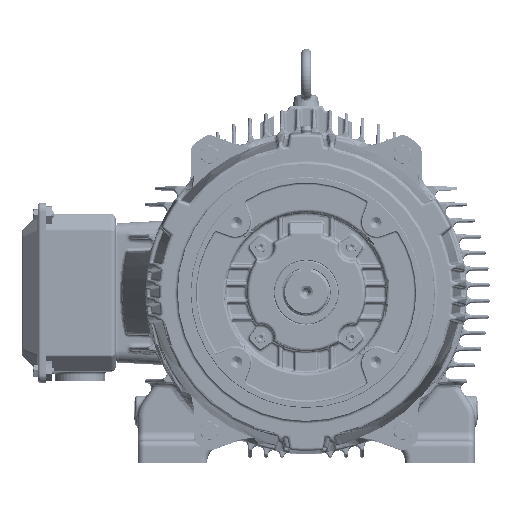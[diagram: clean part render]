
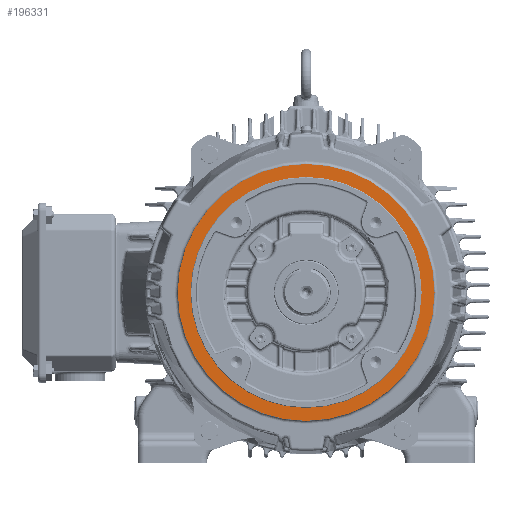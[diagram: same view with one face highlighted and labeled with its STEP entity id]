
A CAD part, top view. The second image highlights one B-rep face of the part: STEP entity #196331.
In plain terms, the highlighted planar face has unit normal (0, 0, 1).
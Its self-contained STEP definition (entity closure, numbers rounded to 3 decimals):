
#3026 = CARTESIAN_POINT ( 'NONE',  ( -4.724, 0., 9.752 ) ) ;
#4961 = AXIS2_PLACEMENT_3D ( 'NONE', #163458, #138470, #134238 ) ;
#7335 = PLANE ( 'NONE',  #194459 ) ;
#8053 = FACE_OUTER_BOUND ( 'NONE', #146565, .T. ) ;
#19087 = DIRECTION ( 'NONE',  ( 1., 0., 0. ) ) ;
#21263 = DIRECTION ( 'NONE',  ( 0., 0., 1. ) ) ;
#23374 = AXIS2_PLACEMENT_3D ( 'NONE', #222102, #21263, #19087 ) ;
#38008 = ORIENTED_EDGE ( 'NONE', *, *, #307067, .F. ) ;
#65832 = VERTEX_POINT ( 'NONE', #246299 ) ;
#69209 = ORIENTED_EDGE ( 'NONE', *, *, #260623, .F. ) ;
#86965 = DIRECTION ( 'NONE',  ( 1., 0., 0. ) ) ;
#109135 = CIRCLE ( 'NONE', #4961, 4.724 ) ;
#110861 = DIRECTION ( 'NONE',  ( 0., 0., 1. ) ) ;
#117419 = VERTEX_POINT ( 'NONE', #256894 ) ;
#118683 = EDGE_LOOP ( 'NONE', ( #69209, #38008 ) ) ;
#119471 = DIRECTION ( 'NONE',  ( 1., 0., 0. ) ) ;
#120192 = CIRCLE ( 'NONE', #23374, 4.25 ) ;
#134238 = DIRECTION ( 'NONE',  ( 1., 0., 0. ) ) ;
#135829 = CARTESIAN_POINT ( 'NONE',  ( 0., 0., 9.752 ) ) ;
#136344 = DIRECTION ( 'NONE',  ( 0., 0., 1. ) ) ;
#138470 = DIRECTION ( 'NONE',  ( 0., 0., -1. ) ) ;
#143302 = CARTESIAN_POINT ( 'NONE',  ( 0., 0., 9.752 ) ) ;
#146565 = EDGE_LOOP ( 'NONE', ( #171676, #185166 ) ) ;
#151811 = CIRCLE ( 'NONE', #242311, 4.25 ) ;
#161340 = DIRECTION ( 'NONE',  ( 1., 0., 0. ) ) ;
#163458 = CARTESIAN_POINT ( 'NONE',  ( 0., 0., 9.752 ) ) ;
#171676 = ORIENTED_EDGE ( 'NONE', *, *, #244757, .F. ) ;
#185166 = ORIENTED_EDGE ( 'NONE', *, *, #187151, .F. ) ;
#187151 = EDGE_CURVE ( 'NONE', #284074, #117419, #217059, .T. ) ;
#194459 = AXIS2_PLACEMENT_3D ( 'NONE', #205987, #136344, #161340 ) ;
#196331 = ADVANCED_FACE ( 'NONE', ( #8053, #311085 ), #7335, .T. ) ;
#205987 = CARTESIAN_POINT ( 'NONE',  ( 0., 4.921, 9.752 ) ) ;
#213953 = VERTEX_POINT ( 'NONE', #287463 ) ;
#217059 = CIRCLE ( 'NONE', #320420, 4.724 ) ;
#222102 = CARTESIAN_POINT ( 'NONE',  ( 0., 0., 9.752 ) ) ;
#242311 = AXIS2_PLACEMENT_3D ( 'NONE', #135829, #110861, #86965 ) ;
#244757 = EDGE_CURVE ( 'NONE', #117419, #284074, #109135, .T. ) ;
#246299 = CARTESIAN_POINT ( 'NONE',  ( -4.25, 0., 9.752 ) ) ;
#256894 = CARTESIAN_POINT ( 'NONE',  ( 4.724, 0., 9.752 ) ) ;
#260623 = EDGE_CURVE ( 'NONE', #213953, #65832, #120192, .T. ) ;
#269362 = DIRECTION ( 'NONE',  ( 0., 0., -1. ) ) ;
#284074 = VERTEX_POINT ( 'NONE', #3026 ) ;
#287463 = CARTESIAN_POINT ( 'NONE',  ( 4.25, 0., 9.752 ) ) ;
#307067 = EDGE_CURVE ( 'NONE', #65832, #213953, #151811, .T. ) ;
#311085 = FACE_BOUND ( 'NONE', #118683, .T. ) ;
#320420 = AXIS2_PLACEMENT_3D ( 'NONE', #143302, #269362, #119471 ) ;
